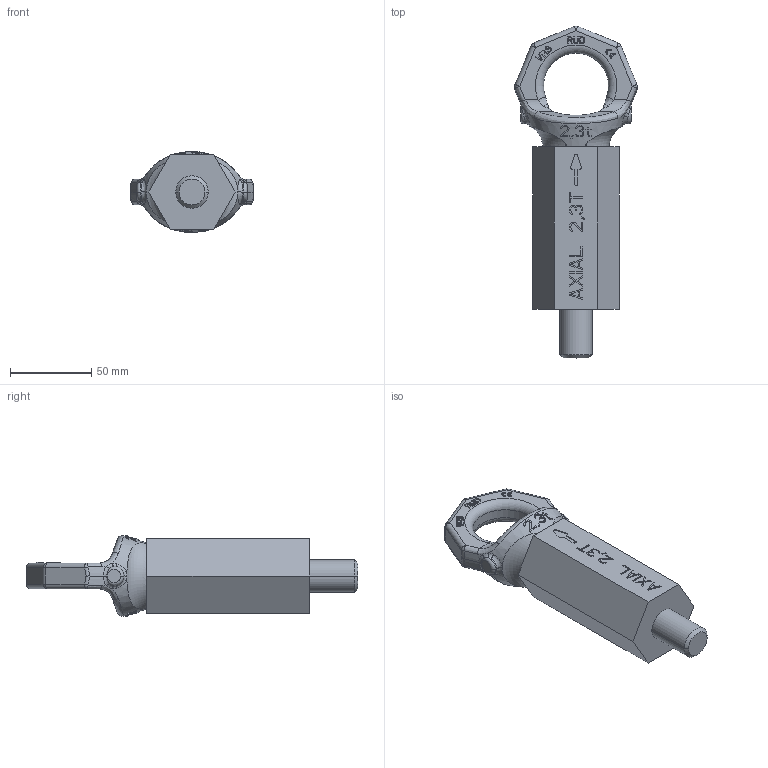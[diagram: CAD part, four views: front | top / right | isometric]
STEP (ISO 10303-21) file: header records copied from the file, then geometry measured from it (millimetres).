
FILE_DESCRIPTION((''),'2;1');
FILE_NAME('001-M35516-P100_ASM','2022-03-22T12:45:15',('Anja.Joas'),(''),'CREO PARAMETRIC BY PTC INC, 2020454','CREO PARAMETRIC BY PTC INC, 2020454','');
FILE_SCHEMA(('AP242_MANAGED_MODEL_BASED_3D_ENGINEERING_MIM_LF { 1 0 10303 442 1 1 4 }'));
Length unit declared in the file: millimetre
Products named in the file (5): 001-M35516-P100; 001-M35308-P-1; 001-M35105-P-1; 001-M35308-P-1_ASM; 001-M35516-P100_ASM
Assembly tree (4 placements, depth 3):
  001-M35516-P100_ASM
    001-M35516-P100
    001-M35308-P-1_ASM
      001-M35308-P-1
      001-M35105-P-1
Bounding box: 75.96 x 204.44 x 49.87 mm (x, y, z)
Volume: 244950.3 mm3; surface area: 46120.8 mm2
Topology: 3 solids, 3 shells, 930 faces, 2570 edges, 1690 vertices
Faces by surface type: plane 799, bspline 58, cylinder 47, torus 10, sphere 10, cone 6
Entity records: 35206 total; most frequent: CARTESIAN_POINT 11460, ORIENTED_EDGE 5136, DIRECTION 3949, EDGE_CURVE 2568, VECTOR 1867, LINE 1867, VERTEX_POINT 1690, AXIS2_PLACEMENT_3D 1041
